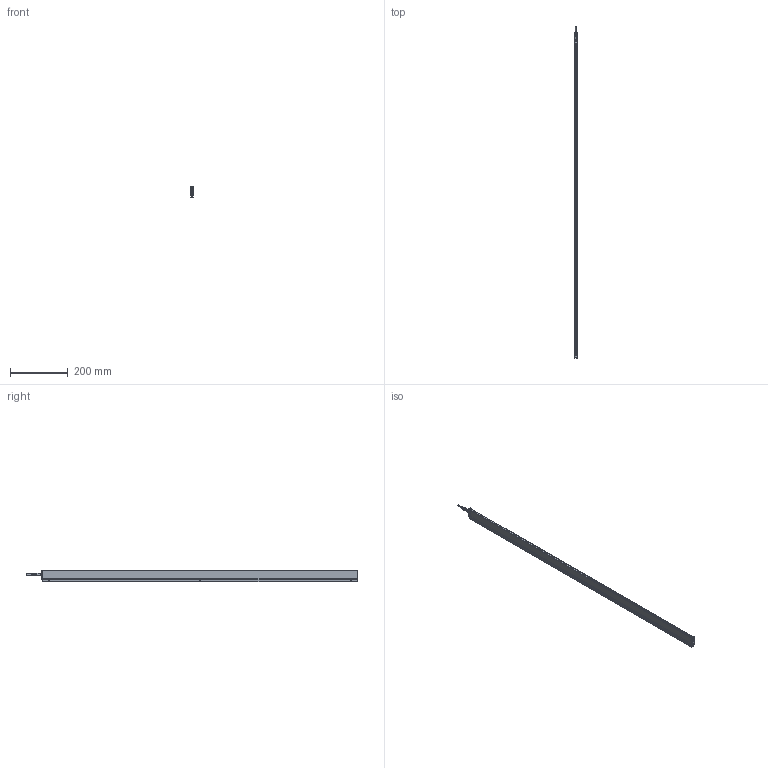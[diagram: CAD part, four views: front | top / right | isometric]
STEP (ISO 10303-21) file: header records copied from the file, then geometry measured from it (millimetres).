
FILE_DESCRIPTION (( 'STEP AP214' ), '1' );
FILE_NAME ('ILG-L-K2-1100mm.STEP', '2017-07-11T07:59:00', ( '' ), ( '' ), 'SwSTEP 2.0', 'SolidWorks 2016', '' );
FILE_SCHEMA (( 'AUTOMOTIVE_DESIGN' ));
Length unit declared in the file: millimetre
Products named in the file (1): ILG-L-K2-1100mm
Bounding box: 9 x 1154.5 x 40.71 mm (x, y, z)
Surface area: 219627.5 mm2 (no closed solid volume)
Topology: 0 solids, 13 shells, 679 faces, 1780 edges, 1131 vertices
Faces by surface type: cylinder 286, plane 255, cone 90, bspline 32, torus 16
Entity records: 30532 total; most frequent: CARTESIAN_POINT 6477, ORIENTED_EDGE 3513, DIRECTION 3392, EDGE_CURVE 1764, AXIS2_PLACEMENT_3D 1295, VERTEX_POINT 1131, VECTOR 802, LINE 802
